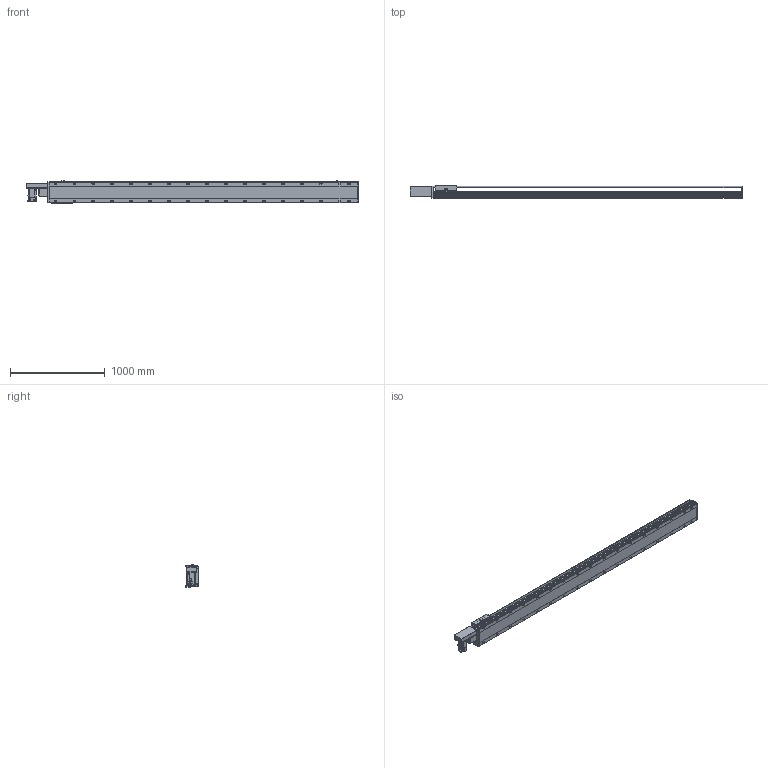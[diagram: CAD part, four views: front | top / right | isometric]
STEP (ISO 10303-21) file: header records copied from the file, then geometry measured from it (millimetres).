
FILE_DESCRIPTION(/* description */ ('STEP AP214'),/* implementation_level */ '2;1');
FILE_NAME(/* name */ 'PBS220-P40-S2900-R-T75-C1-N(0)',/* time_stamp */ '2022-06-11T10:03:40+02:00',/* author */ ('License CC BY-ND 4.0'),/* organization */ ('CADENAS'),/* preprocessor_version */ 'ST-DEVELOPER v18.102',/* originating_system */ 'PARTsolutions',/* authorisation */ ' ');
FILE_SCHEMA (('AUTOMOTIVE_DESIGN {1 0 10303 214 3 1 1}'));
Length unit declared in the file: millimetre
Products named in the file (7): PBS220-P40-S2900-R-T75-C1-N(0); PBS220_sensor; PBS220_plant; PBS220_sliser; T75-p1; PBS220T-R_motors; PBS220-S2900()_body
Assembly tree (8 placements, depth 2):
  PBS220-P40-S2900-R-T75-C1-N(0)
    PBS220_sensor  x3
    PBS220_plant
    PBS220_sliser
    T75-p1
    PBS220T-R_motors
    PBS220-S2900()_body
Bounding box: 3506 x 134 x 238.5 mm (x, y, z)
Volume: 47042716.9 mm3; surface area: 4278694.6 mm2
Topology: 8 solids, 8 shells, 1022 faces, 2648 edges, 1720 vertices
Faces by surface type: plane 634, cylinder 330, cone 58
Full cylindrical faces by diameter (mm): 2.013 x4, 4.5 x14, 4.917 x4, 6 x7, 6.647 x8, 8 x10, 8.376 x34, 8.5 x34, 10 x6, 14 x34, 38 x2, 40 x1, 70 x1
Entity records: 28437 total; most frequent: CARTESIAN_POINT 5086, DIRECTION 4941, ORIENTED_EDGE 4430, EDGE_CURVE 2215, AXIS2_PLACEMENT_3D 1789, VERTEX_POINT 1560, LINE 1363, VECTOR 1363
